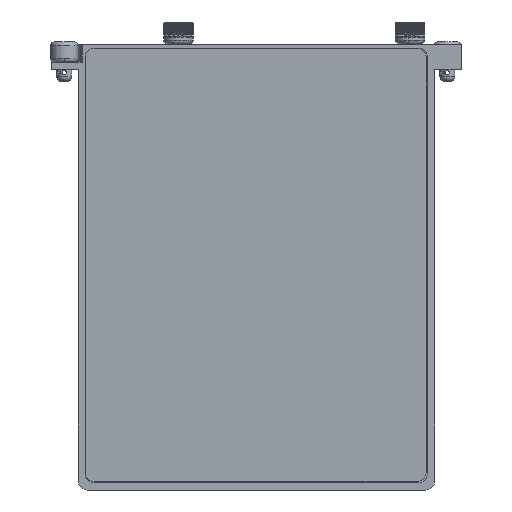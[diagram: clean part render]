
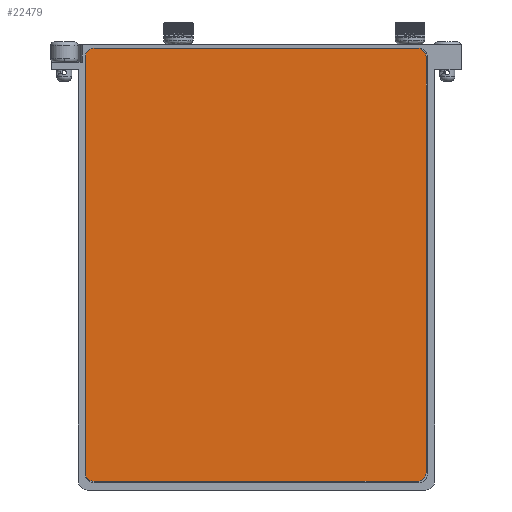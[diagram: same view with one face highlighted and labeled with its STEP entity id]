
A CAD part, front view. The second image highlights one B-rep face of the part: STEP entity #22479.
In plain terms, the highlighted planar face has unit normal (0, -1, 0).
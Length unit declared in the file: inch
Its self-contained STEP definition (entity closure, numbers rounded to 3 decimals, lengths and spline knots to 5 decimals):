
#179 = CARTESIAN_POINT ( 'NONE',  ( -4.94807, -0.74, -3.01438 ) ) ;
#586 = DIRECTION ( 'NONE',  ( 0., -1., 0. ) ) ;
#794 = EDGE_LOOP ( 'NONE', ( #17048, #2756, #34872, #10831, #17956, #13857, #6883, #35307 ) ) ;
#864 = CIRCLE ( 'NONE', #34654, 0.125 ) ;
#942 = LINE ( 'NONE', #17274, #6703 ) ;
#1996 = AXIS2_PLACEMENT_3D ( 'NONE', #20150, #3282, #34243 ) ;
#2197 = EDGE_CURVE ( 'NONE', #28593, #14769, #942, .T. ) ;
#2410 = VECTOR ( 'NONE', #30850, 39.37008 ) ;
#2756 = ORIENTED_EDGE ( 'NONE', *, *, #24399, .T. ) ;
#2996 = EDGE_CURVE ( 'NONE', #15938, #19891, #21246, .T. ) ;
#3282 = DIRECTION ( 'NONE',  ( 0., -1., 0. ) ) ;
#3701 = PLANE ( 'NONE',  #5485 ) ;
#4344 = CARTESIAN_POINT ( 'NONE',  ( -4.82307, -0.74, -3.01438 ) ) ;
#5485 = AXIS2_PLACEMENT_3D ( 'NONE', #12448, #586, #26018 ) ;
#6041 = DIRECTION ( 'NONE',  ( 0., -1., 0. ) ) ;
#6703 = VECTOR ( 'NONE', #31502, 39.37008 ) ;
#6883 = ORIENTED_EDGE ( 'NONE', *, *, #2996, .T. ) ;
#7893 = EDGE_CURVE ( 'NONE', #14769, #14727, #864, .T. ) ;
#8552 = CARTESIAN_POINT ( 'NONE',  ( -8.27759, -0.74, -8.96969 ) ) ;
#10209 = VECTOR ( 'NONE', #17522, 39.37008 ) ;
#10385 = CARTESIAN_POINT ( 'NONE',  ( -4.94807, -0.74, -2.88938 ) ) ;
#10831 = ORIENTED_EDGE ( 'NONE', *, *, #7893, .T. ) ;
#11953 = VERTEX_POINT ( 'NONE', #31127 ) ;
#12099 = VERTEX_POINT ( 'NONE', #14806 ) ;
#12255 = AXIS2_PLACEMENT_3D ( 'NONE', #16971, #19554, #31068 ) ;
#12368 = EDGE_CURVE ( 'NONE', #14727, #12099, #18819, .T. ) ;
#12448 = CARTESIAN_POINT ( 'NONE',  ( -8.27759, -0.74, -7.56877 ) ) ;
#13857 = ORIENTED_EDGE ( 'NONE', *, *, #22807, .T. ) ;
#14727 = VERTEX_POINT ( 'NONE', #10385 ) ;
#14769 = VERTEX_POINT ( 'NONE', #4344 ) ;
#14806 = CARTESIAN_POINT ( 'NONE',  ( -9.47838, -0.74, -2.88938 ) ) ;
#15041 = CARTESIAN_POINT ( 'NONE',  ( -4.94807, -0.74, -8.84469 ) ) ;
#15411 = FACE_OUTER_BOUND ( 'NONE', #794, .T. ) ;
#15938 = VERTEX_POINT ( 'NONE', #17125 ) ;
#16971 = CARTESIAN_POINT ( 'NONE',  ( -9.47838, -0.74, -8.84469 ) ) ;
#17048 = ORIENTED_EDGE ( 'NONE', *, *, #25764, .T. ) ;
#17125 = CARTESIAN_POINT ( 'NONE',  ( -9.60338, -0.74, -3.01438 ) ) ;
#17274 = CARTESIAN_POINT ( 'NONE',  ( -4.82307, -0.74, -7.56877 ) ) ;
#17522 = DIRECTION ( 'NONE',  ( 0., 0., -1. ) ) ;
#17909 = CARTESIAN_POINT ( 'NONE',  ( -4.94807, -0.74, -8.96969 ) ) ;
#17956 = ORIENTED_EDGE ( 'NONE', *, *, #12368, .T. ) ;
#18206 = AXIS2_PLACEMENT_3D ( 'NONE', #15041, #6041, #20336 ) ;
#18819 = LINE ( 'NONE', #29851, #2410 ) ;
#19226 = CARTESIAN_POINT ( 'NONE',  ( -4.82307, -0.74, -8.84469 ) ) ;
#19554 = DIRECTION ( 'NONE',  ( 0., -1., 0. ) ) ;
#19891 = VERTEX_POINT ( 'NONE', #22698 ) ;
#20150 = CARTESIAN_POINT ( 'NONE',  ( -9.47838, -0.74, -3.01438 ) ) ;
#20336 = DIRECTION ( 'NONE',  ( 0., 0., -1. ) ) ;
#20357 = CARTESIAN_POINT ( 'NONE',  ( -9.60338, -0.74, -7.56877 ) ) ;
#21065 = CIRCLE ( 'NONE', #1996, 0.125 ) ;
#21246 = LINE ( 'NONE', #20357, #10209 ) ;
#22479 = ADVANCED_FACE ( 'NONE', ( #15411 ), #3701, .T. ) ;
#22698 = CARTESIAN_POINT ( 'NONE',  ( -9.60338, -0.74, -8.84469 ) ) ;
#22807 = EDGE_CURVE ( 'NONE', #12099, #15938, #21065, .T. ) ;
#24399 = EDGE_CURVE ( 'NONE', #32268, #28593, #28460, .T. ) ;
#24757 = LINE ( 'NONE', #8552, #27407 ) ;
#25764 = EDGE_CURVE ( 'NONE', #11953, #32268, #24757, .T. ) ;
#26018 = DIRECTION ( 'NONE',  ( 0., 0., 1. ) ) ;
#27407 = VECTOR ( 'NONE', #28350, 39.37008 ) ;
#28350 = DIRECTION ( 'NONE',  ( 1., 0., 0. ) ) ;
#28460 = CIRCLE ( 'NONE', #18206, 0.125 ) ;
#28570 = CIRCLE ( 'NONE', #12255, 0.125 ) ;
#28593 = VERTEX_POINT ( 'NONE', #19226 ) ;
#29851 = CARTESIAN_POINT ( 'NONE',  ( -8.27759, -0.74, -2.88938 ) ) ;
#30850 = DIRECTION ( 'NONE',  ( -1., 0., 0. ) ) ;
#31068 = DIRECTION ( 'NONE',  ( 0., 0., -1. ) ) ;
#31127 = CARTESIAN_POINT ( 'NONE',  ( -9.47838, -0.74, -8.96969 ) ) ;
#31502 = DIRECTION ( 'NONE',  ( 0., 0., 1. ) ) ;
#32268 = VERTEX_POINT ( 'NONE', #17909 ) ;
#33180 = EDGE_CURVE ( 'NONE', #19891, #11953, #28570, .T. ) ;
#33773 = DIRECTION ( 'NONE',  ( 0., -1., 0. ) ) ;
#34243 = DIRECTION ( 'NONE',  ( 0., 0., -1. ) ) ;
#34654 = AXIS2_PLACEMENT_3D ( 'NONE', #179, #33773, #36754 ) ;
#34872 = ORIENTED_EDGE ( 'NONE', *, *, #2197, .T. ) ;
#35307 = ORIENTED_EDGE ( 'NONE', *, *, #33180, .T. ) ;
#36754 = DIRECTION ( 'NONE',  ( 0., 0., -1. ) ) ;
